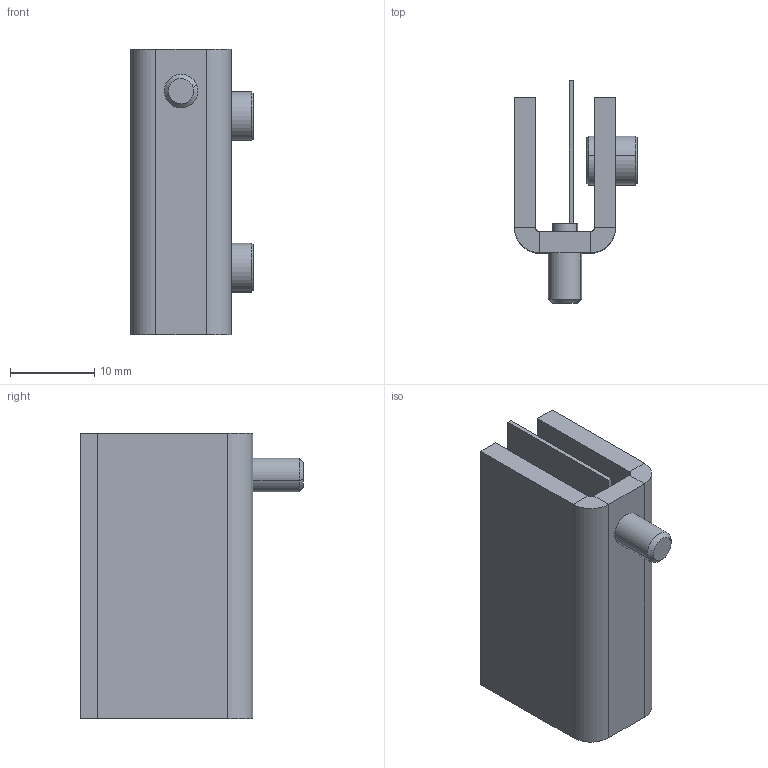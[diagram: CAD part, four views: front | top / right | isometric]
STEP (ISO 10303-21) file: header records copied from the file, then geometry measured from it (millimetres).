
FILE_DESCRIPTION (( 'STEP AP214' ), '1' );
FILE_NAME ('3.ST24-34.001.STEP', '2010-03-02T19:15:48', ( 'Techniczny' ), ( 'RST Roztocze' ), 'SwSTEP 2.0', 'SolidWorks 2010', '' );
FILE_SCHEMA (( 'AUTOMOTIVE_DESIGN' ));
Length unit declared in the file: millimetre
Products named in the file (5): 3.ST24-34.001; 3.ST24-34.001.01; Imbus; 3.ST24-34.001.02; 3.ST24-34.001.03
Assembly tree (5 placements, depth 2):
  3.ST24-34.001
    3.ST24-34.001.02
    Imbus  x2
    3.ST24-34.001.01
    3.ST24-34.001.03
Bounding box: 14.6 x 26.5 x 34 mm (x, y, z)
Volume: 4139.6 mm3; surface area: 4998.9 mm2
Topology: 5 solids, 5 shells, 91 faces, 194 edges, 112 vertices
Faces by surface type: plane 55, cylinder 20, cone 16
Entity records: 2064 total; most frequent: DIRECTION 346, CARTESIAN_POINT 306, ORIENTED_EDGE 288, EDGE_CURVE 144, AXIS2_PLACEMENT_3D 125, LINE 96, VECTOR 96, VERTEX_POINT 85
